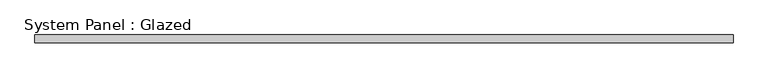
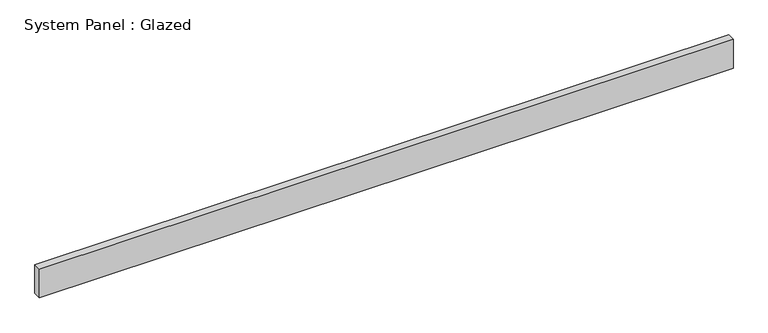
"""IFC4 building model written with IfcOpenShell, lengths in millimetres: plate geometry, System Panel : Glazed."""

from ifc_helpers import new_model, si_unit, origin, origin_with_axes, place, context, project, spatial, polyline, outline, extrude, source, transform, mapped, element, save


def system_panel_glazed_b2c5e9e3(model_context):
    return source(origin(), model_context, "Body", "SweptSolid", [
        extrude(outline(polyline([(1500.0, -17.0), (-1500.0, -17.0), (-1500.0, 17.0), (1500.0, 17.0), (1500.0, -17.0)])), origin_with_axes(), (0.0, 0.0, 1.0), 131.3803085),
    ])


if __name__ == "__main__":
    model = new_model("IFC4")
    model_context = context("Model", 3, world=origin())
    ifc_project = project(units=[si_unit("LENGTHUNIT", "METRE", prefix="MILLI")], contexts=[model_context])
    site = spatial("IfcSite", under=ifc_project)
    building = spatial("IfcBuilding", under=site)
    placement = place(None, origin())
    system_panel_glazed_shape = system_panel_glazed_b2c5e9e3(model_context)
    element("IfcPlate", 1, ObjectType="System Panel : Glazed", at=placement, inside=building, context=model_context, shape_type="MappedRepresentation", body=[
        mapped(system_panel_glazed_shape, transform((0.0, 0.0, 0.0), x_axis=(1.0, 0.0, 0.0), y_axis=(0.0, 1.0, 0.0), z_axis=(0.0, 0.0, 1.0))),
    ])
    save(model, "model.ifc")
